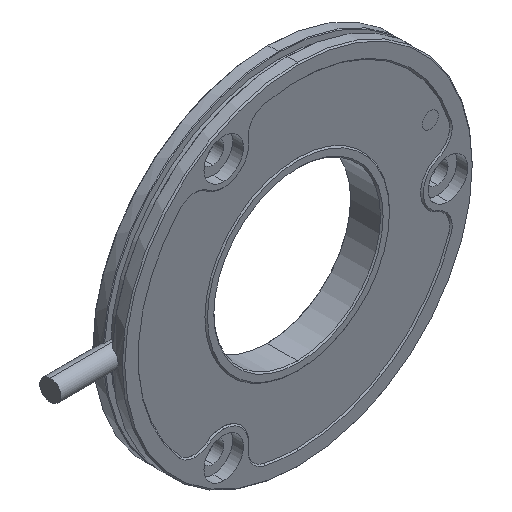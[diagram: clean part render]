
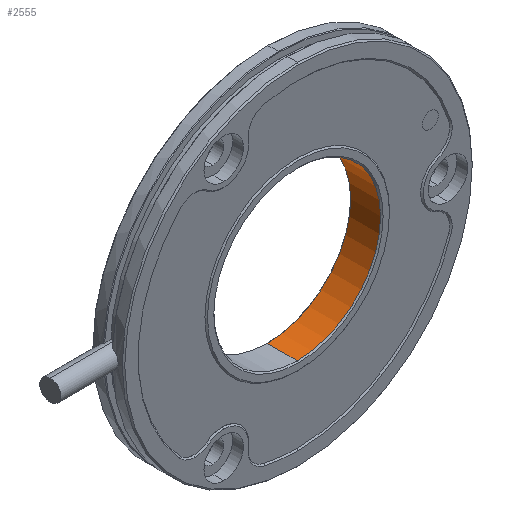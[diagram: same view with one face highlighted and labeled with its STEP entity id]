
A CAD part, isometric view. The second image highlights one B-rep face of the part: STEP entity #2555.
In plain terms, the highlighted cylindrical face has radius 13.1 mm (diameter 26.2 mm), a partial arc.
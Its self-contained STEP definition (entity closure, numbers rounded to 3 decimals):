
#25 = ORIENTED_EDGE ( 'NONE', *, *, #4316, .T. ) ;
#117 = AXIS2_PLACEMENT_3D ( 'NONE', #4821, #310, #922 ) ;
#145 = VECTOR ( 'NONE', #3339, 1000. ) ;
#310 = DIRECTION ( 'NONE',  ( 0., 1., 0. ) ) ;
#922 = DIRECTION ( 'NONE',  ( 0., 0., 1. ) ) ;
#924 = ORIENTED_EDGE ( 'NONE', *, *, #2516, .T. ) ;
#1135 = DIRECTION ( 'NONE',  ( 0., -1., 0. ) ) ;
#1361 = CARTESIAN_POINT ( 'NONE',  ( 0., 5., 13.1 ) ) ;
#1441 = VERTEX_POINT ( 'NONE', #4208 ) ;
#1544 = CARTESIAN_POINT ( 'NONE',  ( 0., 0.2, -13.1 ) ) ;
#1795 = ORIENTED_EDGE ( 'NONE', *, *, #5103, .T. ) ;
#1841 = DIRECTION ( 'NONE',  ( 0., -1., 0. ) ) ;
#2060 = DIRECTION ( 'NONE',  ( 0., 0., -1. ) ) ;
#2073 = EDGE_LOOP ( 'NONE', ( #6005, #1795, #924, #25 ) ) ;
#2145 = VERTEX_POINT ( 'NONE', #1544 ) ;
#2305 = CARTESIAN_POINT ( 'NONE',  ( 0., 0.2, 0. ) ) ;
#2516 = EDGE_CURVE ( 'NONE', #1441, #2145, #3237, .T. ) ;
#2555 = ADVANCED_FACE ( 'NONE', ( #2715 ), #2570, .F. ) ;
#2570 = CYLINDRICAL_SURFACE ( 'NONE', #3336, 13.1 ) ;
#2715 = FACE_OUTER_BOUND ( 'NONE', #2073, .T. ) ;
#2790 = VERTEX_POINT ( 'NONE', #3303 ) ;
#2869 = DIRECTION ( 'NONE',  ( 0., 0., 1. ) ) ;
#3237 = LINE ( 'NONE', #6215, #5461 ) ;
#3264 = CIRCLE ( 'NONE', #117, 13.1 ) ;
#3303 = CARTESIAN_POINT ( 'NONE',  ( 0., 4.9, 13.1 ) ) ;
#3336 = AXIS2_PLACEMENT_3D ( 'NONE', #5081, #4065, #2060 ) ;
#3339 = DIRECTION ( 'NONE',  ( 0., -1., 0. ) ) ;
#3489 = CARTESIAN_POINT ( 'NONE',  ( 0., 0.2, 13.1 ) ) ;
#4035 = EDGE_CURVE ( 'NONE', #2790, #5211, #5470, .T. ) ;
#4065 = DIRECTION ( 'NONE',  ( 0., -1., 0. ) ) ;
#4208 = CARTESIAN_POINT ( 'NONE',  ( 0., 4.9, -13.1 ) ) ;
#4316 = EDGE_CURVE ( 'NONE', #2145, #5211, #6192, .T. ) ;
#4821 = CARTESIAN_POINT ( 'NONE',  ( 0., 4.9, 0. ) ) ;
#5081 = CARTESIAN_POINT ( 'NONE',  ( 0., 5., 0. ) ) ;
#5103 = EDGE_CURVE ( 'NONE', #2790, #1441, #3264, .T. ) ;
#5211 = VERTEX_POINT ( 'NONE', #3489 ) ;
#5461 = VECTOR ( 'NONE', #1135, 1000. ) ;
#5470 = LINE ( 'NONE', #1361, #145 ) ;
#6005 = ORIENTED_EDGE ( 'NONE', *, *, #4035, .F. ) ;
#6192 = CIRCLE ( 'NONE', #6397, 13.1 ) ;
#6215 = CARTESIAN_POINT ( 'NONE',  ( 0., 5., -13.1 ) ) ;
#6397 = AXIS2_PLACEMENT_3D ( 'NONE', #2305, #1841, #2869 ) ;
